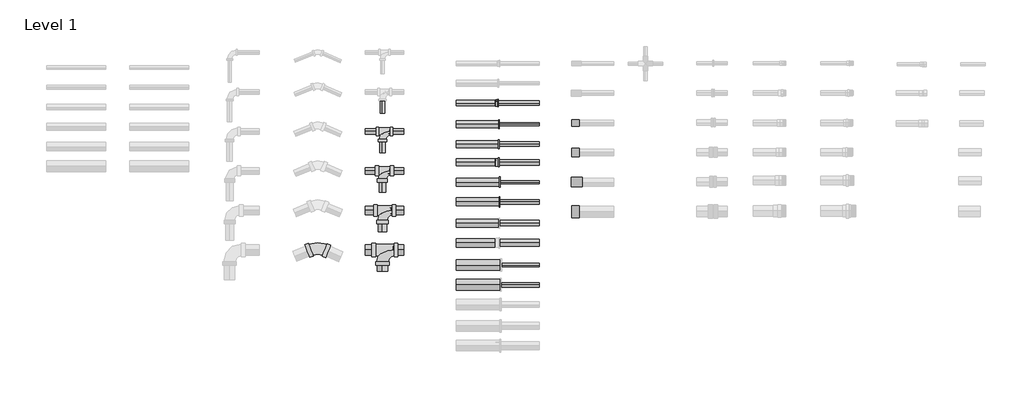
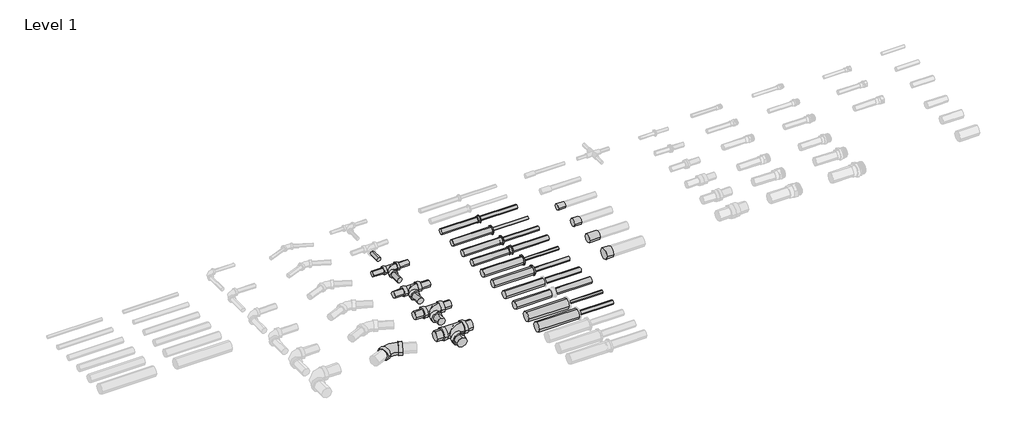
# One storey, part 2 of 5: 33 pipe segments, 15 pipe fittings.
"""IFC4 building model written with IfcOpenShell, lengths in millimetres."""

from ifc_helpers import new_model, si_unit, point, frame, frame_2d, origin, place, context, project, spatial, circle_curve, trimmed, segment, composite_curve, outline, extrude, transform, mapped, element, save
from components import standard_8136c827, standard_5dc662f1, standard_5d736629, standard_768752a3, standard_64dc8774, standard_6d483c06, standard_1abcddf5, standard_93c21275, standard_23a92373, standard_bea9125b, standard_b6fe021b, standard_2b73e99e, standard_4791971d, standard_0a9851e4, standard_7a745ed6

model = new_model("IFC4")

# Units and contexts
model_context = context("Model", 3, world=origin())
ifc_project = project(units=[si_unit("LENGTHUNIT", "METRE", prefix="MILLI")], contexts=[model_context])

# Site, building, storey
site = spatial("IfcSite", under=ifc_project)
building = spatial("IfcBuilding", under=site)
storey = spatial("IfcBuildingStorey", under=building, Name="Level 1", Elevation=0.0)

# Pipe fittings
placement = place(None, origin())
standard_shape = standard_8136c827(model_context)
element("IfcPipeFitting", 1, ObjectType="Tee_Lubrizol_CPVC-FlowGuard_MX : Standard", at=placement, inside=storey, context=model_context, shape_type="MappedRepresentation", body=[
    mapped(standard_shape, transform((-13067.734073, 6608.9751793, 0.0), x_axis=(-1.0, 0.0, 0.0), y_axis=(0.0, 1.0, 0.0), z_axis=(0.0, 0.0, -1.0))),
])
standard_2_shape = standard_5dc662f1(model_context)
element("IfcPipeFitting", 2, ObjectType="Elbow_45_90-Lubrizol-CPVC-FlowGuard_MX : Standard", at=placement, inside=storey, context=model_context, shape_type="MappedRepresentation", body=[
    mapped(standard_2_shape, transform((-13394.7066037, 6224.3191966, 0.0), x_axis=(-0.9205048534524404, 0.39073112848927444, 0.0), y_axis=(-0.3907311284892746, -0.9205048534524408, 0.0), z_axis=(0.0, 0.0, 1.0000000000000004))),
])
standard_3_shape = standard_5d736629(model_context)
element("IfcPipeFitting", 3, ObjectType="Tee_Lubrizol_CPVC-FlowGuard_MX : Standard", at=placement, inside=storey, context=model_context, shape_type="MappedRepresentation", body=[
    mapped(standard_3_shape, transform((-13067.734073, 6208.9751793, 0.0), x_axis=(-1.0, 0.0, 0.0), y_axis=(0.0, 1.0, 0.0), z_axis=(0.0, 0.0, -1.0))),
])
standard_4_shape = standard_768752a3(model_context)
element("IfcPipeFitting", 4, ObjectType="Tee_Lubrizol_CPVC-FlowGuard_MX : Standard", at=placement, inside=storey, context=model_context, shape_type="MappedRepresentation", body=[
    mapped(standard_4_shape, transform((-13067.734073, 6408.9751793, 0.0), x_axis=(-1.0, 0.0, 0.0), y_axis=(0.0, 1.0, 0.0), z_axis=(0.0, 0.0, -1.0))),
])
standard_5_shape = standard_64dc8774(model_context)
element("IfcPipeFitting", 5, ObjectType="Tee_Lubrizol_CPVC-FlowGuard_MX : Standard", at=placement, inside=storey, context=model_context, shape_type="MappedRepresentation", body=[
    mapped(standard_5_shape, transform((-13067.734073, 6808.9751793, 0.0), x_axis=(-1.0, 0.0, 0.0), y_axis=(0.0, 1.0, 0.0), z_axis=(0.0, 0.0, -1.0))),
])
standard_6_shape = standard_6d483c06(model_context)
element("IfcPipeFitting", 6, ObjectType="Cap_Lubrizol_CPVC_FlowGuard_MX : Standard", at=placement, inside=storey, context=model_context, shape_type="MappedRepresentation", body=[
    mapped(standard_6_shape, transform((-12070.9977666, 6402.702325, 0.0), x_axis=(-1.0, 0.0, 0.0), y_axis=(0.0, -1.0, 0.0), z_axis=(0.0, 0.0, 1.0))),
])
standard_7_shape = standard_1abcddf5(model_context)
element("IfcPipeFitting", 7, ObjectType="Cap_Lubrizol_CPVC_FlowGuard_MX : Standard", at=placement, inside=storey, context=model_context, shape_type="MappedRepresentation", body=[
    mapped(standard_7_shape, transform((-12070.9977666, 6852.702325, 0.0), x_axis=(-1.0, 0.0, 0.0), y_axis=(0.0, -1.0, 0.0), z_axis=(0.0, 0.0, 1.0))),
])
standard_8_shape = standard_93c21275(model_context)
element("IfcPipeFitting", 8, ObjectType="Cap_Lubrizol_CPVC_FlowGuard_MX : Standard", at=placement, inside=storey, context=model_context, shape_type="MappedRepresentation", body=[
    mapped(standard_8_shape, transform((-12070.9977666, 6702.702325, 0.0), x_axis=(-1.0, 0.0, 0.0), y_axis=(0.0, -1.0, 0.0), z_axis=(0.0, 0.0, 1.0))),
])
standard_9_shape = standard_23a92373(model_context)
element("IfcPipeFitting", 9, ObjectType="Cap_Lubrizol_CPVC_FlowGuard_MX : Standard", at=placement, inside=storey, context=model_context, shape_type="MappedRepresentation", body=[
    mapped(standard_9_shape, transform((-12055.9977666, 6552.702325, 0.0), x_axis=(-1.0, 0.0, 0.0), y_axis=(0.0, -1.0, 0.0), z_axis=(0.0, 0.0, 1.0))),
])
standard_10_shape = standard_bea9125b(model_context)
element("IfcPipeFitting", 10, ObjectType="Reducion Bushing_Lubrizol_CPVC_FlowGuard_MX : Standard", at=placement, inside=storey, context=model_context, shape_type="MappedRepresentation", body=[
    mapped(standard_10_shape, transform((-12495.9144232, 6952.702325, 0.0), x_axis=(1.0, 0.0, 0.0), y_axis=(0.0, 1.0, 0.0), z_axis=(0.0, 0.0, 1.0))),
])
standard_11_shape = standard_b6fe021b(model_context)
element("IfcPipeFitting", 11, ObjectType="Reducion Bushing_Lubrizol_CPVC_FlowGuard_MX : Standard", at=placement, inside=storey, context=model_context, shape_type="MappedRepresentation", body=[
    mapped(standard_11_shape, transform((-12495.1344232, 6844.752325, 0.0), x_axis=(1.0, 0.0, 0.0), y_axis=(0.0, 1.0, 0.0), z_axis=(0.0, 0.0, 1.0))),
])
standard_12_shape = standard_2b73e99e(model_context)
element("IfcPipeFitting", 12, ObjectType="Reducion Bushing_Lubrizol_CPVC_FlowGuard_MX : Standard", at=placement, inside=storey, context=model_context, shape_type="MappedRepresentation", body=[
    mapped(standard_12_shape, transform((-12495.9144232, 6744.752325, 0.0), x_axis=(1.0, 0.0, 0.0), y_axis=(0.0, 1.0, 0.0), z_axis=(0.0, 0.0, 1.0))),
])
standard_13_shape = standard_4791971d(model_context)
element("IfcPipeFitting", 13, ObjectType="Reducion Bushing_Lubrizol_CPVC_FlowGuard_MX : Standard", at=placement, inside=storey, context=model_context, shape_type="MappedRepresentation", body=[
    mapped(standard_13_shape, transform((-12496.6944232, 6652.702325, 0.0), x_axis=(1.0, 0.0, 0.0), y_axis=(0.0, 1.0, 0.0), z_axis=(0.0, 0.0, 1.0))),
])
standard_14_shape = standard_0a9851e4(model_context)
element("IfcPipeFitting", 14, ObjectType="Reducion Bushing_Lubrizol_CPVC_FlowGuard_MX : Standard", at=placement, inside=storey, context=model_context, shape_type="MappedRepresentation", body=[
    mapped(standard_14_shape, transform((-12495.1344232, 6552.702325, 0.0), x_axis=(1.0, 0.0, 0.0), y_axis=(0.0, 1.0, 0.0), z_axis=(0.0, 0.0, 1.0))),
])
standard_15_shape = standard_7a745ed6(model_context)
element("IfcPipeFitting", 15, ObjectType="Reducion Bushing_Lubrizol_CPVC_FlowGuard_MX : Standard", at=placement, inside=storey, context=model_context, shape_type="MappedRepresentation", body=[
    mapped(standard_15_shape, transform((-12495.9144232, 6452.702325, 0.0), x_axis=(1.0, 0.0, 0.0), y_axis=(0.0, 1.0, 0.0), z_axis=(0.0, 0.0, 1.0))),
])

# Pipe segments
element("IfcPipeSegment", 16, ObjectType="Lubrizol_Flow Guard SDR 13.5", at=placement, inside=storey, context=model_context, shape_type="SweptSolid", body=[
    extrude(outline(composite_curve([segment(trimmed(circle_curve(frame_2d((6952.702325, 0.0)), 11.1), [point((6941.602325, 0.0))], [point((6952.702325, 11.1))], False, "CARTESIAN"), True, "CONTINUOUS"), segment(trimmed(circle_curve(frame_2d((6952.702325, 0.0)), 11.1), [point((6952.702325, 11.1))], [point((6963.802325, 0.0))], False, "CARTESIAN"), True, "CONTINUOUS"), segment(trimmed(circle_curve(frame_2d((6952.702325, 0.0)), 11.1), [point((6963.802325, 0.0))], [point((6952.702325, -11.1))], False, "CARTESIAN"), True, "CONTINUOUS"), segment(trimmed(circle_curve(frame_2d((6952.702325, 0.0)), 11.1), [point((6952.702325, -11.1))], [point((6941.602325, 0.0))], False, "CARTESIAN"), True, "CONTINUOUS")], self_intersect=False)), frame((-12493.5394232, 0.0, 0.0), z_axis=(1.0, 0.0, 0.0), x_axis=(0.0, 1.0, 0.0)), (0.0, 0.0, 1.0), 218.6410937),
])
element("IfcPipeSegment", 17, ObjectType="Lubrizol_Flow Guard SDR 13.5", at=placement, inside=storey, context=model_context, shape_type="SweptSolid", body=[
    extrude(outline(composite_curve([segment(trimmed(circle_curve(frame_2d((6952.702325, 0.0)), 14.3), [point((6938.402325, 0.0))], [point((6952.702325, 14.3))], False, "CARTESIAN"), True, "CONTINUOUS"), segment(trimmed(circle_curve(frame_2d((6952.702325, 0.0)), 14.3), [point((6952.702325, 14.3))], [point((6967.002325, 0.0))], False, "CARTESIAN"), True, "CONTINUOUS"), segment(trimmed(circle_curve(frame_2d((6952.702325, 0.0)), 14.3), [point((6967.002325, 0.0))], [point((6952.702325, -14.3))], False, "CARTESIAN"), True, "CONTINUOUS"), segment(trimmed(circle_curve(frame_2d((6952.702325, 0.0)), 14.3), [point((6952.702325, -14.3))], [point((6938.402325, 0.0))], False, "CARTESIAN"), True, "CONTINUOUS")], self_intersect=False)), frame((-12695.1344232, 0.0, 0.0), z_axis=(1.0, 0.0, 0.0), x_axis=(0.0, 1.0, 0.0)), (0.0, 0.0, 1.0), 211.114),
])
element("IfcPipeSegment", 18, ObjectType="Lubrizol_Flow Guard SDR 13.5", at=placement, inside=storey, context=model_context, shape_type="SweptSolid", body=[
    extrude(outline(composite_curve([segment(trimmed(circle_curve(frame_2d((6844.752325, 0.0)), 7.95), [point((6836.802325, 0.0))], [point((6844.752325, 7.95))], False, "CARTESIAN"), True, "CONTINUOUS"), segment(trimmed(circle_curve(frame_2d((6844.752325, 0.0)), 7.95), [point((6844.752325, 7.95))], [point((6852.702325, 0.0))], False, "CARTESIAN"), True, "CONTINUOUS"), segment(trimmed(circle_curve(frame_2d((6844.752325, 0.0)), 7.95), [point((6852.702325, 0.0))], [point((6844.752325, -7.95))], False, "CARTESIAN"), True, "CONTINUOUS"), segment(trimmed(circle_curve(frame_2d((6844.752325, 0.0)), 7.95), [point((6844.752325, -7.95))], [point((6836.802325, 0.0))], False, "CARTESIAN"), True, "CONTINUOUS")], self_intersect=False)), frame((-12493.5094232, 0.0, 0.0), z_axis=(1.0, 0.0, 0.0), x_axis=(0.0, 1.0, 0.0)), (0.0, 0.0, 1.0), 218.6110937),
])
element("IfcPipeSegment", 19, ObjectType="Lubrizol_Flow Guard SDR 13.5", at=placement, inside=storey, context=model_context, shape_type="SweptSolid", body=[
    extrude(outline(composite_curve([segment(trimmed(circle_curve(frame_2d((6844.752325, 0.0)), 17.45), [point((6827.302325, 0.0))], [point((6844.752325, 17.45))], False, "CARTESIAN"), True, "CONTINUOUS"), segment(trimmed(circle_curve(frame_2d((6844.752325, 0.0)), 17.45), [point((6844.752325, 17.45))], [point((6862.202325, 0.0))], False, "CARTESIAN"), True, "CONTINUOUS"), segment(trimmed(circle_curve(frame_2d((6844.752325, 0.0)), 17.45), [point((6862.202325, 0.0))], [point((6844.752325, -17.45))], False, "CARTESIAN"), True, "CONTINUOUS"), segment(trimmed(circle_curve(frame_2d((6844.752325, 0.0)), 17.45), [point((6844.752325, -17.45))], [point((6827.302325, 0.0))], False, "CARTESIAN"), True, "CONTINUOUS")], self_intersect=False)), frame((-12695.1344232, 0.0, 0.0), z_axis=(1.0, 0.0, 0.0), x_axis=(0.0, 1.0, 0.0)), (0.0, 0.0, 1.0), 215.213),
])
element("IfcPipeSegment", 20, ObjectType="Lubrizol_Flow Guard SDR 13.5", at=placement, inside=storey, context=model_context, shape_type="SweptSolid", body=[
    extrude(outline(composite_curve([segment(trimmed(circle_curve(frame_2d((6744.752325, 0.0)), 11.1), [point((6733.652325, 0.0))], [point((6744.752325, 11.1))], False, "CARTESIAN"), True, "CONTINUOUS"), segment(trimmed(circle_curve(frame_2d((6744.752325, 0.0)), 11.1), [point((6744.752325, 11.1))], [point((6755.852325, 0.0))], False, "CARTESIAN"), True, "CONTINUOUS"), segment(trimmed(circle_curve(frame_2d((6744.752325, 0.0)), 11.1), [point((6755.852325, 0.0))], [point((6744.752325, -11.1))], False, "CARTESIAN"), True, "CONTINUOUS"), segment(trimmed(circle_curve(frame_2d((6744.752325, 0.0)), 11.1), [point((6744.752325, -11.1))], [point((6733.652325, 0.0))], False, "CARTESIAN"), True, "CONTINUOUS")], self_intersect=False)), frame((-12493.5394232, 0.0, 0.0), z_axis=(1.0, 0.0, 0.0), x_axis=(0.0, 1.0, 0.0)), (0.0, 0.0, 1.0), 218.6410937),
])
element("IfcPipeSegment", 21, ObjectType="Lubrizol_Flow Guard SDR 13.5", at=placement, inside=storey, context=model_context, shape_type="SweptSolid", body=[
    extrude(outline(composite_curve([segment(trimmed(circle_curve(frame_2d((6744.752325, 0.0)), 17.45), [point((6727.302325, 0.0))], [point((6744.752325, 17.45))], False, "CARTESIAN"), True, "CONTINUOUS"), segment(trimmed(circle_curve(frame_2d((6744.752325, 0.0)), 17.45), [point((6744.752325, 17.45))], [point((6762.202325, 0.0))], False, "CARTESIAN"), True, "CONTINUOUS"), segment(trimmed(circle_curve(frame_2d((6744.752325, 0.0)), 17.45), [point((6762.202325, 0.0))], [point((6744.752325, -17.45))], False, "CARTESIAN"), True, "CONTINUOUS"), segment(trimmed(circle_curve(frame_2d((6744.752325, 0.0)), 17.45), [point((6744.752325, -17.45))], [point((6727.302325, 0.0))], False, "CARTESIAN"), True, "CONTINUOUS")], self_intersect=False)), frame((-12695.1344232, 0.0, 0.0), z_axis=(1.0, 0.0, 0.0), x_axis=(0.0, 1.0, 0.0)), (0.0, 0.0, 1.0), 214.439),
])
element("IfcPipeSegment", 22, ObjectType="Lubrizol_Flow Guard SDR 13.5", at=placement, inside=storey, context=model_context, shape_type="SweptSolid", body=[
    extrude(outline(composite_curve([segment(trimmed(circle_curve(frame_2d((6652.702325, 0.0)), 14.3), [point((6638.402325, 0.0))], [point((6652.702325, 14.3))], False, "CARTESIAN"), True, "CONTINUOUS"), segment(trimmed(circle_curve(frame_2d((6652.702325, 0.0)), 14.3), [point((6652.702325, 14.3))], [point((6667.002325, 0.0))], False, "CARTESIAN"), True, "CONTINUOUS"), segment(trimmed(circle_curve(frame_2d((6652.702325, 0.0)), 14.3), [point((6667.002325, 0.0))], [point((6652.702325, -14.3))], False, "CARTESIAN"), True, "CONTINUOUS"), segment(trimmed(circle_curve(frame_2d((6652.702325, 0.0)), 14.3), [point((6652.702325, -14.3))], [point((6638.402325, 0.0))], False, "CARTESIAN"), True, "CONTINUOUS")], self_intersect=False)), frame((-12493.5694232, 0.0, 0.0), z_axis=(1.0, 0.0, 0.0), x_axis=(0.0, 1.0, 0.0)), (0.0, 0.0, 1.0), 218.6710937),
])
element("IfcPipeSegment", 23, ObjectType="Lubrizol_Flow Guard SDR 13.5", at=placement, inside=storey, context=model_context, shape_type="SweptSolid", body=[
    extrude(outline(composite_curve([segment(trimmed(circle_curve(frame_2d((6652.702325, 0.0)), 17.45), [point((6635.252325, 0.0))], [point((6652.702325, 17.45))], False, "CARTESIAN"), True, "CONTINUOUS"), segment(trimmed(circle_curve(frame_2d((6652.702325, 0.0)), 17.45), [point((6652.702325, 17.45))], [point((6670.152325, 0.0))], False, "CARTESIAN"), True, "CONTINUOUS"), segment(trimmed(circle_curve(frame_2d((6652.702325, 0.0)), 17.45), [point((6670.152325, 0.0))], [point((6652.702325, -17.45))], False, "CARTESIAN"), True, "CONTINUOUS"), segment(trimmed(circle_curve(frame_2d((6652.702325, 0.0)), 17.45), [point((6652.702325, -17.45))], [point((6635.252325, 0.0))], False, "CARTESIAN"), True, "CONTINUOUS")], self_intersect=False)), frame((-12695.1344232, 0.0, 0.0), z_axis=(1.0, 0.0, 0.0), x_axis=(0.0, 1.0, 0.0)), (0.0, 0.0, 1.0), 213.665),
])
element("IfcPipeSegment", 24, ObjectType="Lubrizol_Flow Guard SDR 13.5", at=placement, inside=storey, context=model_context, shape_type="SweptSolid", body=[
    extrude(outline(composite_curve([segment(trimmed(circle_curve(frame_2d((6552.702325, 0.0)), 7.95), [point((6544.752325, 0.0))], [point((6552.702325, 7.95))], False, "CARTESIAN"), True, "CONTINUOUS"), segment(trimmed(circle_curve(frame_2d((6552.702325, 0.0)), 7.95), [point((6552.702325, 7.95))], [point((6560.652325, 0.0))], False, "CARTESIAN"), True, "CONTINUOUS"), segment(trimmed(circle_curve(frame_2d((6552.702325, 0.0)), 7.95), [point((6560.652325, 0.0))], [point((6552.702325, -7.95))], False, "CARTESIAN"), True, "CONTINUOUS"), segment(trimmed(circle_curve(frame_2d((6552.702325, 0.0)), 7.95), [point((6552.702325, -7.95))], [point((6544.752325, 0.0))], False, "CARTESIAN"), True, "CONTINUOUS")], self_intersect=False)), frame((-12493.5094232, 0.0, 0.0), z_axis=(1.0, 0.0, 0.0), x_axis=(0.0, 1.0, 0.0)), (0.0, 0.0, 1.0), 218.6110937),
])
element("IfcPipeSegment", 25, ObjectType="Lubrizol_Flow Guard SDR 13.5", at=placement, inside=storey, context=model_context, shape_type="SweptSolid", body=[
    extrude(outline(composite_curve([segment(trimmed(circle_curve(frame_2d((6552.702325, 0.0)), 20.65), [point((6532.052325, 0.0))], [point((6552.702325, 20.65))], False, "CARTESIAN"), True, "CONTINUOUS"), segment(trimmed(circle_curve(frame_2d((6552.702325, 0.0)), 20.65), [point((6552.702325, 20.65))], [point((6573.352325, 0.0))], False, "CARTESIAN"), True, "CONTINUOUS"), segment(trimmed(circle_curve(frame_2d((6552.702325, 0.0)), 20.65), [point((6573.352325, 0.0))], [point((6552.702325, -20.65))], False, "CARTESIAN"), True, "CONTINUOUS"), segment(trimmed(circle_curve(frame_2d((6552.702325, 0.0)), 20.65), [point((6552.702325, -20.65))], [point((6532.052325, 0.0))], False, "CARTESIAN"), True, "CONTINUOUS")], self_intersect=False)), frame((-12695.1344232, 0.0, 0.0), z_axis=(1.0, 0.0, 0.0), x_axis=(0.0, 1.0, 0.0)), (0.0, 0.0, 1.0), 218.063),
])
element("IfcPipeSegment", 26, ObjectType="Lubrizol_Flow Guard SDR 13.5", at=placement, inside=storey, context=model_context, shape_type="SweptSolid", body=[
    extrude(outline(composite_curve([segment(trimmed(circle_curve(frame_2d((6452.702325, 0.0)), 11.1), [point((6441.602325, 0.0))], [point((6452.702325, 11.1))], False, "CARTESIAN"), True, "CONTINUOUS"), segment(trimmed(circle_curve(frame_2d((6452.702325, 0.0)), 11.1), [point((6452.702325, 11.1))], [point((6463.802325, 0.0))], False, "CARTESIAN"), True, "CONTINUOUS"), segment(trimmed(circle_curve(frame_2d((6452.702325, 0.0)), 11.1), [point((6463.802325, 0.0))], [point((6452.702325, -11.1))], False, "CARTESIAN"), True, "CONTINUOUS"), segment(trimmed(circle_curve(frame_2d((6452.702325, 0.0)), 11.1), [point((6452.702325, -11.1))], [point((6441.602325, 0.0))], False, "CARTESIAN"), True, "CONTINUOUS")], self_intersect=False)), frame((-12493.5394232, 0.0, 0.0), z_axis=(1.0, 0.0, 0.0), x_axis=(0.0, 1.0, 0.0)), (0.0, 0.0, 1.0), 218.6410937),
])
element("IfcPipeSegment", 27, ObjectType="Lubrizol_Flow Guard SDR 13.5", at=placement, inside=storey, context=model_context, shape_type="SweptSolid", body=[
    extrude(outline(composite_curve([segment(trimmed(circle_curve(frame_2d((6452.702325, 0.0)), 20.65), [point((6432.052325, 0.0))], [point((6452.702325, 20.65))], False, "CARTESIAN"), True, "CONTINUOUS"), segment(trimmed(circle_curve(frame_2d((6452.702325, 0.0)), 20.65), [point((6452.702325, 20.65))], [point((6473.352325, 0.0))], False, "CARTESIAN"), True, "CONTINUOUS"), segment(trimmed(circle_curve(frame_2d((6452.702325, 0.0)), 20.65), [point((6473.352325, 0.0))], [point((6452.702325, -20.65))], False, "CARTESIAN"), True, "CONTINUOUS"), segment(trimmed(circle_curve(frame_2d((6452.702325, 0.0)), 20.65), [point((6452.702325, -20.65))], [point((6432.052325, 0.0))], False, "CARTESIAN"), True, "CONTINUOUS")], self_intersect=False)), frame((-12695.1344232, 0.0, 0.0), z_axis=(1.0, 0.0, 0.0), x_axis=(0.0, 1.0, 0.0)), (0.0, 0.0, 1.0), 217.289),
])
element("IfcPipeSegment", 28, ObjectType="Lubrizol_Flow Guard SDR 13.5", at=placement, inside=storey, context=model_context, shape_type="SweptSolid", body=[
    extrude(outline(composite_curve([segment(trimmed(circle_curve(frame_2d((6344.752325, 0.0)), 14.3), [point((6330.452325, 0.0))], [point((6344.752325, 14.3))], False, "CARTESIAN"), True, "CONTINUOUS"), segment(trimmed(circle_curve(frame_2d((6344.752325, 0.0)), 14.3), [point((6344.752325, 14.3))], [point((6359.052325, 0.0))], False, "CARTESIAN"), True, "CONTINUOUS"), segment(trimmed(circle_curve(frame_2d((6344.752325, 0.0)), 14.3), [point((6359.052325, 0.0))], [point((6344.752325, -14.3))], False, "CARTESIAN"), True, "CONTINUOUS"), segment(trimmed(circle_curve(frame_2d((6344.752325, 0.0)), 14.3), [point((6344.752325, -14.3))], [point((6330.452325, 0.0))], False, "CARTESIAN"), True, "CONTINUOUS")], self_intersect=False)), frame((-12493.5694232, 0.0, 0.0), z_axis=(1.0, 0.0, 0.0), x_axis=(0.0, 1.0, 0.0)), (0.0, 0.0, 1.0), 218.6710937),
])
element("IfcPipeSegment", 29, ObjectType="Lubrizol_Flow Guard SDR 13.5", at=placement, inside=storey, context=model_context, shape_type="SweptSolid", body=[
    extrude(outline(composite_curve([segment(trimmed(circle_curve(frame_2d((6344.752325, 0.0)), 20.65), [point((6324.102325, 0.0))], [point((6344.752325, 20.65))], False, "CARTESIAN"), True, "CONTINUOUS"), segment(trimmed(circle_curve(frame_2d((6344.752325, 0.0)), 20.65), [point((6344.752325, 20.65))], [point((6365.402325, 0.0))], False, "CARTESIAN"), True, "CONTINUOUS"), segment(trimmed(circle_curve(frame_2d((6344.752325, 0.0)), 20.65), [point((6365.402325, 0.0))], [point((6344.752325, -20.65))], False, "CARTESIAN"), True, "CONTINUOUS"), segment(trimmed(circle_curve(frame_2d((6344.752325, 0.0)), 20.65), [point((6344.752325, -20.65))], [point((6324.102325, 0.0))], False, "CARTESIAN"), True, "CONTINUOUS")], self_intersect=False)), frame((-12695.1344232, 0.0, 0.0), z_axis=(1.0, 0.0, 0.0), x_axis=(0.0, 1.0, 0.0)), (0.0, 0.0, 1.0), 216.515),
])
element("IfcPipeSegment", 30, ObjectType="Lubrizol_Flow Guard SDR 13.5", at=placement, inside=storey, context=model_context, shape_type="SweptSolid", body=[
    extrude(outline(composite_curve([segment(trimmed(circle_curve(frame_2d((6244.752325, 0.0)), 17.45), [point((6227.302325, 0.0))], [point((6244.752325, 17.45))], False, "CARTESIAN"), True, "CONTINUOUS"), segment(trimmed(circle_curve(frame_2d((6244.752325, 0.0)), 17.45), [point((6244.752325, 17.45))], [point((6262.202325, 0.0))], False, "CARTESIAN"), True, "CONTINUOUS"), segment(trimmed(circle_curve(frame_2d((6244.752325, 0.0)), 17.45), [point((6262.202325, 0.0))], [point((6244.752325, -17.45))], False, "CARTESIAN"), True, "CONTINUOUS"), segment(trimmed(circle_curve(frame_2d((6244.752325, 0.0)), 17.45), [point((6244.752325, -17.45))], [point((6227.302325, 0.0))], False, "CARTESIAN"), True, "CONTINUOUS")], self_intersect=False)), frame((-12493.6044232, 0.0, 0.0), z_axis=(1.0, 0.0, 0.0), x_axis=(0.0, 1.0, 0.0)), (0.0, 0.0, 1.0), 218.7060937),
])
element("IfcPipeSegment", 31, ObjectType="Lubrizol_Flow Guard SDR 13.5", at=placement, inside=storey, context=model_context, shape_type="SweptSolid", body=[
    extrude(outline(composite_curve([segment(trimmed(circle_curve(frame_2d((6244.752325, 0.0)), 20.65), [point((6224.102325, 0.0))], [point((6244.752325, 20.65))], False, "CARTESIAN"), True, "CONTINUOUS"), segment(trimmed(circle_curve(frame_2d((6244.752325, 0.0)), 20.65), [point((6244.752325, 20.65))], [point((6265.402325, 0.0))], False, "CARTESIAN"), True, "CONTINUOUS"), segment(trimmed(circle_curve(frame_2d((6244.752325, 0.0)), 20.65), [point((6265.402325, 0.0))], [point((6244.752325, -20.65))], False, "CARTESIAN"), True, "CONTINUOUS"), segment(trimmed(circle_curve(frame_2d((6244.752325, 0.0)), 20.65), [point((6244.752325, -20.65))], [point((6224.102325, 0.0))], False, "CARTESIAN"), True, "CONTINUOUS")], self_intersect=False)), frame((-12695.1344232, 0.0, 0.0), z_axis=(1.0, 0.0, 0.0), x_axis=(0.0, 1.0, 0.0)), (0.0, 0.0, 1.0), 215.612),
])
element("IfcPipeSegment", 32, ObjectType="Lubrizol_Flow Guard SDR 13.5", at=placement, inside=storey, context=model_context, shape_type="SweptSolid", body=[
    extrude(outline(composite_curve([segment(trimmed(circle_curve(frame_2d((6132.702325, 0.0)), 7.95), [point((6124.752325, 0.0))], [point((6132.702325, 7.95))], False, "CARTESIAN"), True, "CONTINUOUS"), segment(trimmed(circle_curve(frame_2d((6132.702325, 0.0)), 7.95), [point((6132.702325, 7.95))], [point((6140.652325, 0.0))], False, "CARTESIAN"), True, "CONTINUOUS"), segment(trimmed(circle_curve(frame_2d((6132.702325, 0.0)), 7.95), [point((6140.652325, 0.0))], [point((6132.702325, -7.95))], False, "CARTESIAN"), True, "CONTINUOUS"), segment(trimmed(circle_curve(frame_2d((6132.702325, 0.0)), 7.95), [point((6132.702325, -7.95))], [point((6124.752325, 0.0))], False, "CARTESIAN"), True, "CONTINUOUS")], self_intersect=False)), frame((-12493.5094232, 0.0, 0.0), z_axis=(1.0, 0.0, 0.0), x_axis=(0.0, 1.0, 0.0)), (0.0, 0.0, 1.0), 218.6110937),
])
element("IfcPipeSegment", 33, ObjectType="Lubrizol_Flow Guard SDR 13.5", at=placement, inside=storey, context=model_context, shape_type="SweptSolid", body=[
    extrude(outline(composite_curve([segment(trimmed(circle_curve(frame_2d((6132.702325, 0.0)), 27.0), [point((6105.702325, 0.0))], [point((6132.702325, 27.0))], False, "CARTESIAN"), True, "CONTINUOUS"), segment(trimmed(circle_curve(frame_2d((6132.702325, 0.0)), 27.0), [point((6132.702325, 27.0))], [point((6159.702325, 0.0))], False, "CARTESIAN"), True, "CONTINUOUS"), segment(trimmed(circle_curve(frame_2d((6132.702325, 0.0)), 27.0), [point((6159.702325, 0.0))], [point((6132.702325, -27.0))], False, "CARTESIAN"), True, "CONTINUOUS"), segment(trimmed(circle_curve(frame_2d((6132.702325, 0.0)), 27.0), [point((6132.702325, -27.0))], [point((6105.702325, 0.0))], False, "CARTESIAN"), True, "CONTINUOUS")], self_intersect=False)), frame((-12695.1344232, 0.0, 0.0), z_axis=(1.0, 0.0, 0.0), x_axis=(0.0, 1.0, 0.0)), (0.0, 0.0, 1.0), 223.763),
])
element("IfcPipeSegment", 34, ObjectType="Lubrizol_Flow Guard SDR 13.5", at=placement, inside=storey, context=model_context, shape_type="SweptSolid", body=[
    extrude(outline(composite_curve([segment(trimmed(circle_curve(frame_2d((6032.702325, 0.0)), 11.1), [point((6021.602325, 0.0))], [point((6032.702325, 11.1))], False, "CARTESIAN"), True, "CONTINUOUS"), segment(trimmed(circle_curve(frame_2d((6032.702325, 0.0)), 11.1), [point((6032.702325, 11.1))], [point((6043.802325, 0.0))], False, "CARTESIAN"), True, "CONTINUOUS"), segment(trimmed(circle_curve(frame_2d((6032.702325, 0.0)), 11.1), [point((6043.802325, 0.0))], [point((6032.702325, -11.1))], False, "CARTESIAN"), True, "CONTINUOUS"), segment(trimmed(circle_curve(frame_2d((6032.702325, 0.0)), 11.1), [point((6032.702325, -11.1))], [point((6021.602325, 0.0))], False, "CARTESIAN"), True, "CONTINUOUS")], self_intersect=False)), frame((-12493.5394232, 0.0, 0.0), z_axis=(1.0, 0.0, 0.0), x_axis=(0.0, 1.0, 0.0)), (0.0, 0.0, 1.0), 218.6410937),
])
element("IfcPipeSegment", 35, ObjectType="Lubrizol_Flow Guard SDR 13.5", at=placement, inside=storey, context=model_context, shape_type="SweptSolid", body=[
    extrude(outline(composite_curve([segment(trimmed(circle_curve(frame_2d((6032.702325, 0.0)), 27.0), [point((6005.702325, 0.0))], [point((6032.702325, 27.0))], False, "CARTESIAN"), True, "CONTINUOUS"), segment(trimmed(circle_curve(frame_2d((6032.702325, 0.0)), 27.0), [point((6032.702325, 27.0))], [point((6059.702325, 0.0))], False, "CARTESIAN"), True, "CONTINUOUS"), segment(trimmed(circle_curve(frame_2d((6032.702325, 0.0)), 27.0), [point((6059.702325, 0.0))], [point((6032.702325, -27.0))], False, "CARTESIAN"), True, "CONTINUOUS"), segment(trimmed(circle_curve(frame_2d((6032.702325, 0.0)), 27.0), [point((6032.702325, -27.0))], [point((6005.702325, 0.0))], False, "CARTESIAN"), True, "CONTINUOUS")], self_intersect=False)), frame((-12695.1344232, 0.0, 0.0), z_axis=(1.0, 0.0, 0.0), x_axis=(0.0, 1.0, 0.0)), (0.0, 0.0, 1.0), 222.989),
])
element("IfcPipeSegment", 36, ObjectType="Lubrizol_Flow Guard SDR 13.5", at=placement, inside=storey, context=model_context, shape_type="SweptSolid", body=[
    extrude(outline(composite_curve([segment(trimmed(circle_curve(frame_2d((0.0, -13067.734073)), 11.1), [point((0.0, -13078.834073))], [point((-11.1, -13067.734073))], False, "CARTESIAN"), True, "CONTINUOUS"), segment(trimmed(circle_curve(frame_2d((0.0, -13067.734073)), 11.1), [point((-11.1, -13067.734073))], [point((0.0, -13056.634073))], False, "CARTESIAN"), True, "CONTINUOUS"), segment(trimmed(circle_curve(frame_2d((0.0, -13067.734073)), 11.1), [point((0.0, -13056.634073))], [point((11.1, -13067.734073))], False, "CARTESIAN"), True, "CONTINUOUS"), segment(trimmed(circle_curve(frame_2d((0.0, -13067.734073)), 11.1), [point((11.1, -13067.734073))], [point((0.0, -13078.834073))], False, "CARTESIAN"), True, "CONTINUOUS")], self_intersect=False)), frame((0.0, 6900.2811168, 0.0), z_axis=(0.0, 1.0, 0.0), x_axis=(0.0, 0.0, 1.0)), (0.0, 0.0, 1.0), 63.04),
])
element("IfcPipeSegment", 37, ObjectType="Lubrizol_Flow Guard SDR 13.5", at=placement, inside=storey, context=model_context, shape_type="SweptSolid", body=[
    extrude(outline(composite_curve([segment(trimmed(circle_curve(frame_2d((0.0, -14.3)), 14.3), [point((0.0, 0.0))], [point((14.3, -14.3))], False, "CARTESIAN"), True, "CONTINUOUS"), segment(trimmed(circle_curve(frame_2d((0.0, -14.3)), 14.3), [point((14.3, -14.3))], [point((0.0, -28.6))], False, "CARTESIAN"), True, "CONTINUOUS"), segment(trimmed(circle_curve(frame_2d((0.0, -14.3)), 14.3), [point((0.0, -28.6))], [point((-14.3, -14.3))], False, "CARTESIAN"), True, "CONTINUOUS"), segment(trimmed(circle_curve(frame_2d((0.0, -14.3)), 14.3), [point((-14.3, -14.3))], [point((0.0, 0.0))], False, "CARTESIAN"), True, "CONTINUOUS")], self_intersect=False)), frame((-13082.034073, 6700.2811168, 0.0), z_axis=(-1.0980121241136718e-12, 1.0, 0.0), x_axis=(0.0, 0.0, -1.0)), (0.0, 0.0, 1.0), 56.08),
])
element("IfcPipeSegment", 38, ObjectType="Lubrizol_Flow Guard SDR 13.5", at=placement, inside=storey, context=model_context, shape_type="SweptSolid", body=[
    extrude(outline(composite_curve([segment(trimmed(circle_curve(frame_2d((6808.9751793, 0.0)), 14.3), [point((6794.6751793, 0.0))], [point((6808.9751793, 14.3))], False, "CARTESIAN"), True, "CONTINUOUS"), segment(trimmed(circle_curve(frame_2d((6808.9751793, 0.0)), 14.3), [point((6808.9751793, 14.3))], [point((6823.2751793, 0.0))], False, "CARTESIAN"), True, "CONTINUOUS"), segment(trimmed(circle_curve(frame_2d((6808.9751793, 0.0)), 14.3), [point((6823.2751793, 0.0))], [point((6808.9751793, -14.3))], False, "CARTESIAN"), True, "CONTINUOUS"), segment(trimmed(circle_curve(frame_2d((6808.9751793, 0.0)), 14.3), [point((6808.9751793, -14.3))], [point((6794.6751793, 0.0))], False, "CARTESIAN"), True, "CONTINUOUS")], self_intersect=False)), frame((-13015.1200105, 0.0, 0.0), z_axis=(1.0, 0.0, 0.0), x_axis=(0.0, 1.0, 0.0)), (0.0, 0.0, 1.0), 56.08),
])
element("IfcPipeSegment", 39, ObjectType="Lubrizol_Flow Guard SDR 13.5", at=placement, inside=storey, context=model_context, shape_type="SweptSolid", body=[
    extrude(outline(composite_curve([segment(trimmed(circle_curve(frame_2d((6808.9751793, 0.0)), 14.3), [point((6794.6751793, 0.0))], [point((6808.9751793, 14.3))], False, "CARTESIAN"), True, "CONTINUOUS"), segment(trimmed(circle_curve(frame_2d((6808.9751793, 0.0)), 14.3), [point((6808.9751793, 14.3))], [point((6823.2751793, 0.0))], False, "CARTESIAN"), True, "CONTINUOUS"), segment(trimmed(circle_curve(frame_2d((6808.9751793, 0.0)), 14.3), [point((6823.2751793, 0.0))], [point((6808.9751793, -14.3))], False, "CARTESIAN"), True, "CONTINUOUS"), segment(trimmed(circle_curve(frame_2d((6808.9751793, 0.0)), 14.3), [point((6808.9751793, -14.3))], [point((6794.6751793, 0.0))], False, "CARTESIAN"), True, "CONTINUOUS")], self_intersect=False)), frame((-13155.749698, 0.0, 0.0), z_axis=(1.0, 0.0, 0.0), x_axis=(0.0, 1.0, 0.0)), (0.0, 0.0, 1.0), 57.4),
])
element("IfcPipeSegment", 40, ObjectType="Lubrizol_Flow Guard SDR 13.5", at=placement, inside=storey, context=model_context, shape_type="SweptSolid", body=[
    extrude(outline(composite_curve([segment(trimmed(circle_curve(frame_2d((0.0, -17.45)), 17.45), [point((0.0, 0.0))], [point((17.45, -17.45))], False, "CARTESIAN"), True, "CONTINUOUS"), segment(trimmed(circle_curve(frame_2d((0.0, -17.45)), 17.45), [point((17.45, -17.45))], [point((0.0, -34.9))], False, "CARTESIAN"), True, "CONTINUOUS"), segment(trimmed(circle_curve(frame_2d((0.0, -17.45)), 17.45), [point((0.0, -34.9))], [point((-17.45, -17.45))], False, "CARTESIAN"), True, "CONTINUOUS"), segment(trimmed(circle_curve(frame_2d((0.0, -17.45)), 17.45), [point((-17.45, -17.45))], [point((0.0, 0.0))], False, "CARTESIAN"), True, "CONTINUOUS")], self_intersect=False)), frame((-13085.184073, 6500.2811168, 0.0), z_axis=(-1.1790530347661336e-12, 1.0, 0.0), x_axis=(0.0, 0.0, -1.0)), (0.0, 0.0, 1.0), 51.5440625),
])
element("IfcPipeSegment", 41, ObjectType="Lubrizol_Flow Guard SDR 13.5", at=placement, inside=storey, context=model_context, shape_type="SweptSolid", body=[
    extrude(outline(composite_curve([segment(trimmed(circle_curve(frame_2d((6608.9751793, 0.0)), 17.45), [point((6591.5251793, 0.0))], [point((6608.9751793, 17.45))], False, "CARTESIAN"), True, "CONTINUOUS"), segment(trimmed(circle_curve(frame_2d((6608.9751793, 0.0)), 17.45), [point((6608.9751793, 17.45))], [point((6626.4251793, 0.0))], False, "CARTESIAN"), True, "CONTINUOUS"), segment(trimmed(circle_curve(frame_2d((6608.9751793, 0.0)), 17.45), [point((6626.4251793, 0.0))], [point((6608.9751793, -17.45))], False, "CARTESIAN"), True, "CONTINUOUS"), segment(trimmed(circle_curve(frame_2d((6608.9751793, 0.0)), 17.45), [point((6608.9751793, -17.45))], [point((6591.5251793, 0.0))], False, "CARTESIAN"), True, "CONTINUOUS")], self_intersect=False)), frame((-13010.584073, 0.0, 0.0), z_axis=(1.0, 0.0, 0.0), x_axis=(0.0, 1.0, 0.0)), (0.0, 0.0, 1.0), 51.5440625),
])
element("IfcPipeSegment", 42, ObjectType="Lubrizol_Flow Guard SDR 13.5", at=placement, inside=storey, context=model_context, shape_type="SweptSolid", body=[
    extrude(outline(composite_curve([segment(trimmed(circle_curve(frame_2d((6608.9751793, 0.0)), 17.45), [point((6591.5251793, 0.0))], [point((6608.9751793, 17.45))], False, "CARTESIAN"), True, "CONTINUOUS"), segment(trimmed(circle_curve(frame_2d((6608.9751793, 0.0)), 17.45), [point((6608.9751793, 17.45))], [point((6626.4251793, 0.0))], False, "CARTESIAN"), True, "CONTINUOUS"), segment(trimmed(circle_curve(frame_2d((6608.9751793, 0.0)), 17.45), [point((6626.4251793, 0.0))], [point((6608.9751793, -17.45))], False, "CARTESIAN"), True, "CONTINUOUS"), segment(trimmed(circle_curve(frame_2d((6608.9751793, 0.0)), 17.45), [point((6608.9751793, -17.45))], [point((6591.5251793, 0.0))], False, "CARTESIAN"), True, "CONTINUOUS")], self_intersect=False)), frame((-13155.749698, 0.0, 0.0), z_axis=(1.0, 0.0, 0.0), x_axis=(0.0, 1.0, 0.0)), (0.0, 0.0, 1.0), 51.515825),
])
element("IfcPipeSegment", 43, ObjectType="Lubrizol_Flow Guard SDR 13.5", at=placement, inside=storey, context=model_context, shape_type="SweptSolid", body=[
    extrude(outline(composite_curve([segment(trimmed(circle_curve(frame_2d((0.0, -20.65)), 20.65), [point((0.0, 0.0))], [point((20.65, -20.65))], False, "CARTESIAN"), True, "CONTINUOUS"), segment(trimmed(circle_curve(frame_2d((0.0, -20.65)), 20.65), [point((20.65, -20.65))], [point((0.0, -41.3))], False, "CARTESIAN"), True, "CONTINUOUS"), segment(trimmed(circle_curve(frame_2d((0.0, -20.65)), 20.65), [point((0.0, -41.3))], [point((-20.65, -20.65))], False, "CARTESIAN"), True, "CONTINUOUS"), segment(trimmed(circle_curve(frame_2d((0.0, -20.65)), 20.65), [point((-20.65, -20.65))], [point((0.0, 0.0))], False, "CARTESIAN"), True, "CONTINUOUS")], self_intersect=False)), frame((-13088.384073, 6300.2811168, 0.0), z_axis=(-1.468294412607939e-12, 1.0, 0.0), x_axis=(0.0, 0.0, -1.0)), (0.0, 0.0, 1.0), 41.0),
])
element("IfcPipeSegment", 44, ObjectType="Lubrizol_Flow Guard SDR 13.5", at=placement, inside=storey, context=model_context, shape_type="SweptSolid", body=[
    extrude(outline(composite_curve([segment(trimmed(circle_curve(frame_2d((6408.9751793, 0.0)), 20.65), [point((6388.3251793, 0.0))], [point((6408.9751793, 20.65))], False, "CARTESIAN"), True, "CONTINUOUS"), segment(trimmed(circle_curve(frame_2d((6408.9751793, 0.0)), 20.65), [point((6408.9751793, 20.65))], [point((6429.6251793, 0.0))], False, "CARTESIAN"), True, "CONTINUOUS"), segment(trimmed(circle_curve(frame_2d((6408.9751793, 0.0)), 20.65), [point((6429.6251793, 0.0))], [point((6408.9751793, -20.65))], False, "CARTESIAN"), True, "CONTINUOUS"), segment(trimmed(circle_curve(frame_2d((6408.9751793, 0.0)), 20.65), [point((6408.9751793, -20.65))], [point((6388.3251793, 0.0))], False, "CARTESIAN"), True, "CONTINUOUS")], self_intersect=False)), frame((-13000.0400105, 0.0, 0.0), z_axis=(1.0, 0.0, 0.0), x_axis=(0.0, 1.0, 0.0)), (0.0, 0.0, 1.0), 41.0),
])
element("IfcPipeSegment", 45, ObjectType="Lubrizol_Flow Guard SDR 13.5", at=placement, inside=storey, context=model_context, shape_type="SweptSolid", body=[
    extrude(outline(composite_curve([segment(trimmed(circle_curve(frame_2d((6408.9751793, 0.0)), 20.65), [point((6388.3251793, 0.0))], [point((6408.9751793, 20.65))], False, "CARTESIAN"), True, "CONTINUOUS"), segment(trimmed(circle_curve(frame_2d((6408.9751793, 0.0)), 20.65), [point((6408.9751793, 20.65))], [point((6429.6251793, 0.0))], False, "CARTESIAN"), True, "CONTINUOUS"), segment(trimmed(circle_curve(frame_2d((6408.9751793, 0.0)), 20.65), [point((6429.6251793, 0.0))], [point((6408.9751793, -20.65))], False, "CARTESIAN"), True, "CONTINUOUS"), segment(trimmed(circle_curve(frame_2d((6408.9751793, 0.0)), 20.65), [point((6408.9751793, -20.65))], [point((6388.3251793, 0.0))], False, "CARTESIAN"), True, "CONTINUOUS")], self_intersect=False)), frame((-13155.749698, 0.0, 0.0), z_axis=(1.0, 0.0, 0.0), x_axis=(0.0, 1.0, 0.0)), (0.0, 0.0, 1.0), 43.75),
])
element("IfcPipeSegment", 46, ObjectType="Lubrizol_Flow Guard SDR 13.5", at=placement, inside=storey, context=model_context, shape_type="SweptSolid", body=[
    extrude(outline(composite_curve([segment(trimmed(circle_curve(frame_2d((0.0, -27.0)), 27.0), [point((0.0, 0.0))], [point((27.0, -27.0))], False, "CARTESIAN"), True, "CONTINUOUS"), segment(trimmed(circle_curve(frame_2d((0.0, -27.0)), 27.0), [point((27.0, -27.0))], [point((0.0, -54.0))], False, "CARTESIAN"), True, "CONTINUOUS"), segment(trimmed(circle_curve(frame_2d((0.0, -27.0)), 27.0), [point((0.0, -54.0))], [point((-27.0, -27.0))], False, "CARTESIAN"), True, "CONTINUOUS"), segment(trimmed(circle_curve(frame_2d((0.0, -27.0)), 27.0), [point((-27.0, -27.0))], [point((0.0, 0.0))], False, "CARTESIAN"), True, "CONTINUOUS")], self_intersect=False)), frame((-13094.734073, 6100.2811168, 0.0), z_axis=(-1.9652033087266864e-12, 1.0, 0.0), x_axis=(0.0, 0.0, -1.0)), (0.0, 0.0, 1.0), 30.8938625),
])
element("IfcPipeSegment", 47, ObjectType="Lubrizol_Flow Guard SDR 13.5", at=placement, inside=storey, context=model_context, shape_type="SweptSolid", body=[
    extrude(outline(composite_curve([segment(trimmed(circle_curve(frame_2d((6208.9751793, 0.0)), 27.0), [point((6181.9751793, 0.0))], [point((6208.9751793, 27.0))], False, "CARTESIAN"), True, "CONTINUOUS"), segment(trimmed(circle_curve(frame_2d((6208.9751793, 0.0)), 27.0), [point((6208.9751793, 27.0))], [point((6235.9751793, 0.0))], False, "CARTESIAN"), True, "CONTINUOUS"), segment(trimmed(circle_curve(frame_2d((6208.9751793, 0.0)), 27.0), [point((6235.9751793, 0.0))], [point((6208.9751793, -27.0))], False, "CARTESIAN"), True, "CONTINUOUS"), segment(trimmed(circle_curve(frame_2d((6208.9751793, 0.0)), 27.0), [point((6208.9751793, -27.0))], [point((6181.9751793, 0.0))], False, "CARTESIAN"), True, "CONTINUOUS")], self_intersect=False)), frame((-12989.933873, 0.0, 0.0), z_axis=(1.0, 0.0, 0.0), x_axis=(0.0, 1.0, 0.0)), (0.0, 0.0, 1.0), 30.8938625),
])
element("IfcPipeSegment", 48, ObjectType="Lubrizol_Flow Guard SDR 13.5", at=placement, inside=storey, context=model_context, shape_type="SweptSolid", body=[
    extrude(outline(composite_curve([segment(trimmed(circle_curve(frame_2d((6208.9751793, 0.0)), 27.0), [point((6181.9751793, 0.0))], [point((6208.9751793, 27.0))], False, "CARTESIAN"), True, "CONTINUOUS"), segment(trimmed(circle_curve(frame_2d((6208.9751793, 0.0)), 27.0), [point((6208.9751793, 27.0))], [point((6235.9751793, 0.0))], False, "CARTESIAN"), True, "CONTINUOUS"), segment(trimmed(circle_curve(frame_2d((6208.9751793, 0.0)), 27.0), [point((6235.9751793, 0.0))], [point((6208.9751793, -27.0))], False, "CARTESIAN"), True, "CONTINUOUS"), segment(trimmed(circle_curve(frame_2d((6208.9751793, 0.0)), 27.0), [point((6208.9751793, -27.0))], [point((6181.9751793, 0.0))], False, "CARTESIAN"), True, "CONTINUOUS")], self_intersect=False)), frame((-13155.749698, 0.0, 0.0), z_axis=(1.0, 0.0, 0.0), x_axis=(0.0, 1.0, 0.0)), (0.0, 0.0, 1.0), 34.040625),
])

save(model, "model.ifc")
